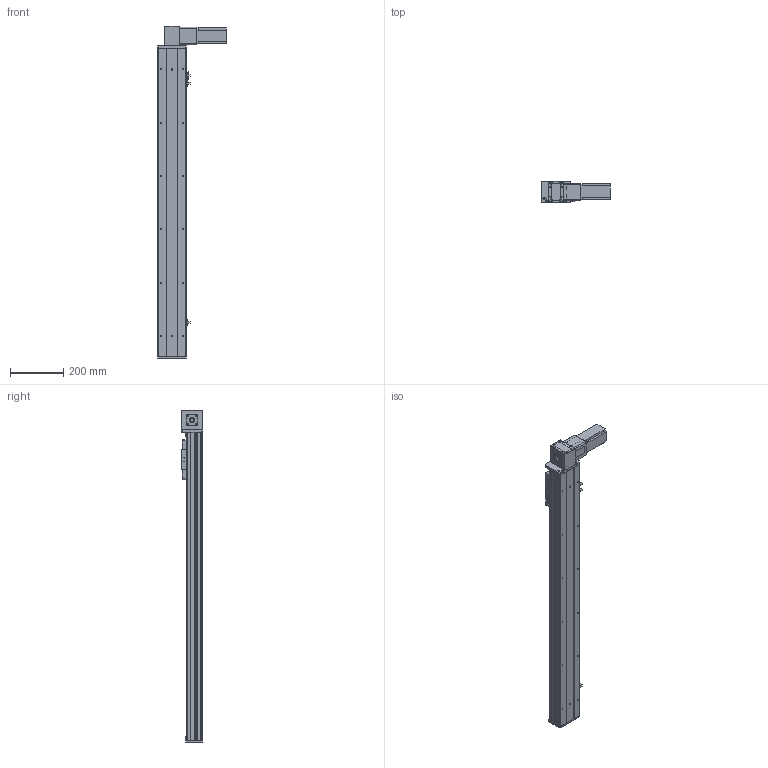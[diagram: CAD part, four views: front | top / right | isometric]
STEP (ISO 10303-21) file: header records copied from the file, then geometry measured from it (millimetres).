
FILE_DESCRIPTION (( 'STEP AP203' ), '1' );
FILE_NAME ('Y10CB-D90-S900-BD-P400W.STEP', '2020-02-17T02:32:03', ( '微软用户' ), ( '微软中国' ), 'SwSTEP 2.0', 'SolidWorks 2017', '' );
FILE_SCHEMA (( 'CONFIG_CONTROL_DESIGN' ));
Length unit declared in the file: millimetre
Products named in the file (16): Y10C---詩湍揤啣; 0CB-雄赽釱---; 0B-薊粣ん眊; Y10CB-D90-S900-BD-P400W; 10CB9-掛极; 0Cb-俋欶---; 10CB-耜裔; Y10B-々湍喘謫眊楊擘啣--; san松下电机400不带刹车----; 0B-源倛裔啣; 0B-埴倛裔啣; Y135C-陔俋离換覜結え-; 10CB-詩湍-; Y100-135俋离換覜ん--; Y10CB- 掛极耜裔啣-毀---; Y10B--々湍喘謫眊--666
Assembly tree (19 placements, depth 2):
  Y10CB-D90-S900-BD-P400W
    0CB-雄赽釱---
    0Cb-俋欶---
    Y10B-々湍喘謫眊楊擘啣--
    san松下电机400不带刹车----
    0B-源倛裔啣
    0B-埴倛裔啣
    10CB-詩湍-
    Y10CB- 掛极耜裔啣-毀---  x2
    Y10C---詩湍揤啣  x2
    10CB9-掛极
    10CB-耜裔
    Y135C-陔俋离換覜結え-
    Y100-135俋离換覜ん--  x3
    Y10B--々湍喘謫眊--666
    0B-薊粣ん眊
Bounding box: 258 x 80.5 x 1246 mm (x, y, z)
Volume: 2961908.7 mm3; surface area: 1279684.2 mm2
Topology: 19 solids, 19 shells, 888 faces, 2342 edges, 1532 vertices
Faces by surface type: plane 434, cylinder 430, cone 24
Entity records: 27069 total; most frequent: CARTESIAN_POINT 4756, DIRECTION 4389, ORIENTED_EDGE 4154, EDGE_CURVE 2077, AXIS2_PLACEMENT_3D 1575, VERTEX_POINT 1358, VECTOR 1239, LINE 1239
